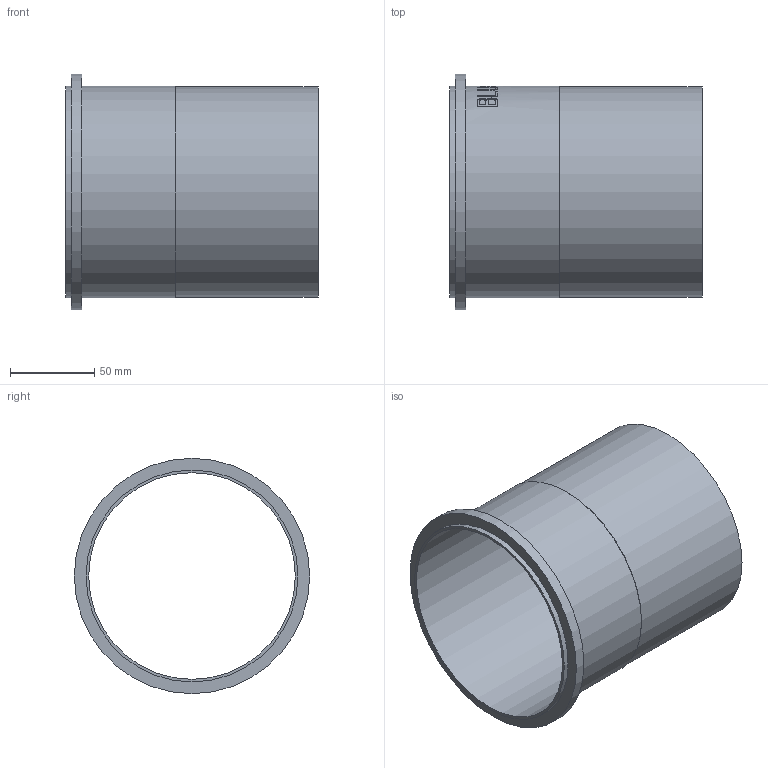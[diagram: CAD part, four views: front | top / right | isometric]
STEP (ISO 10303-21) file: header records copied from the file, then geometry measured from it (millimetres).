
FILE_DESCRIPTION((''),'2;1');
FILE_NAME('I:\WATTS\3D_CAD\3D_CAD_Models\Blucher_Drains\P_StraightPipe\WebsiteFiles\3D\STEP\P5-0.5-316.stp','2009-12-02T14:24:29',('menesek'),(''),'Autodesk Inventor 2010','Autodesk Inventor 2010','');
FILE_SCHEMA(('AUTOMOTIVE_DESIGN { 1 0 10303 214 1 1 1 1 }'));
Length unit declared in the file: inch
Products named in the file (1): P5-0.5-316
Bounding box: 150 x 139.95 x 139.95 mm (x, y, z)
Volume: 90810.6 mm3; surface area: 124447.5 mm2
Topology: 1 solids, 1 shells, 109 faces, 285 edges, 190 vertices
Faces by surface type: plane 59, bspline 34, cylinder 16
Full cylindrical faces by diameter (mm): 122.936 x1, 124.968 x1, 125.984 x2, 139.954 x1
Entity records: 13939 total; most frequent: CARTESIAN_POINT 11561, ORIENTED_EDGE 548, DIRECTION 356, EDGE_CURVE 274, VERTEX_POINT 186, EDGE_LOOP 128, AXIS2_PLACEMENT_3D 120, VECTOR 116
